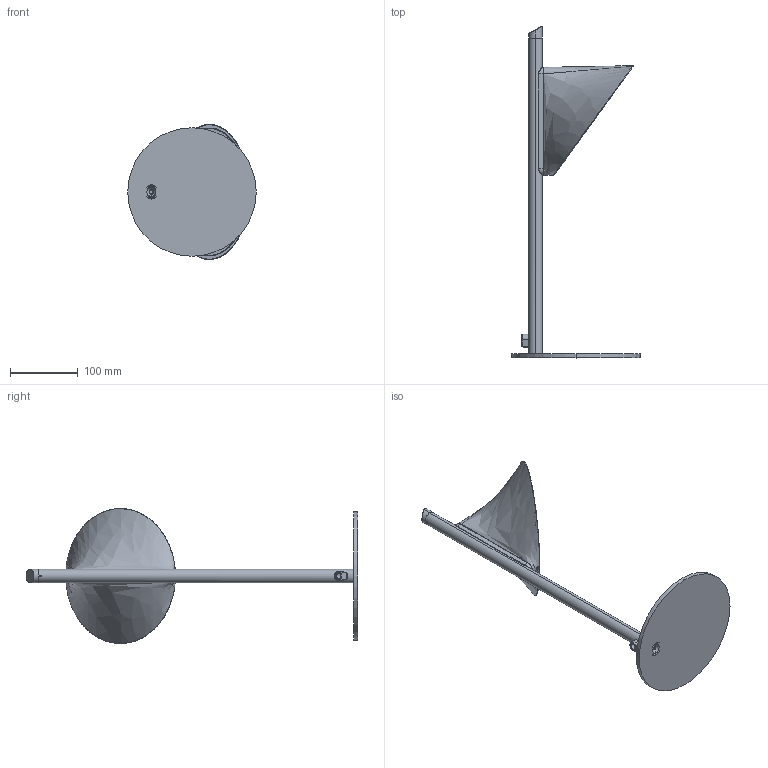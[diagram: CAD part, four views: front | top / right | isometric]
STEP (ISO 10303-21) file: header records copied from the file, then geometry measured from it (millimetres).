
FILE_DESCRIPTION (( 'STEP AP203' ), '1' );
FILE_NAME ('LTORCHIDXXXXLED-3D.STEP', '2024-05-29T06:58:48', ( '' ), ( '' ), 'SwSTEP 2.0', 'SolidWorks 2024', '' );
FILE_SCHEMA (( 'CONFIG_CONTROL_DESIGN' ));
Length unit declared in the file: millimetre
Products named in the file (11): WSCM2A0058-0700-00; LTORCHIDXXXXLED-3D; ORCHID-AP1-REVLT; ORCHID-01-Rev 01; WSCM2D0035-0100-00; WSA5100-7-05-2-6--; WSCM2A0055-0700-00; WSCM2C0088-0100-00; ORCHID-02; WSA5408-4-10-2-6--; WSMCGRF-04A08-0141_MC-G001-PI-FE-08
Assembly tree (10 placements, depth 3):
  LTORCHIDXXXXLED-3D
    WSCM2D0035-0100-00
    WSCM2A0058-0700-00
    ORCHID-AP1-REVLT
      ORCHID-01-Rev 01
      ORCHID-02
      WSMCGRF-04A08-0141_MC-G001-PI-FE-08
    WSCM2C0088-0100-00
    WSCM2A0055-0700-00
    WSA5100-7-05-2-6--
    WSA5408-4-10-2-6--
Bounding box: 190 x 490.85 x 199.59 mm (x, y, z)
Volume: 605954.5 mm3; surface area: 275775.1 mm2
Topology: 10 solids, 10 shells, 401 faces, 949 edges, 559 vertices
Faces by surface type: cylinder 139, plane 97, cone 68, bspline 56, torus 26, sphere 15
Entity records: 23354 total; most frequent: CARTESIAN_POINT 13410, ORIENTED_EDGE 1838, DIRECTION 1813, EDGE_CURVE 919, AXIS2_PLACEMENT_3D 719, VERTEX_POINT 557, EDGE_LOOP 462, FACE_OUTER_BOUND 401
